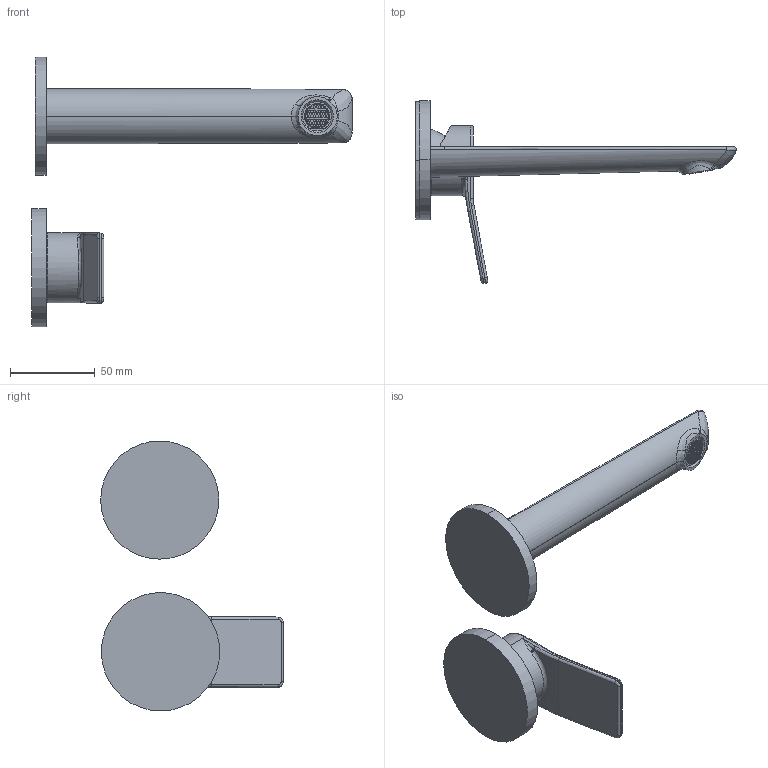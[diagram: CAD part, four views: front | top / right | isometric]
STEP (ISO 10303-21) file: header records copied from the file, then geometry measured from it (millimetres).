
FILE_DESCRIPTION (( 'STEP AP203' ), '1' );
FILE_NAME ('85328110 x architetti.STEP', '2026-04-02T14:41:11', ( '' ), ( '' ), 'SwSTEP 2.0', 'SolidWorks 2020', '' );
FILE_SCHEMA (( 'CONFIG_CONTROL_DESIGN' ));
Length unit declared in the file: millimetre
Products named in the file (1): 85328110 x architetti
Bounding box: 189.37 x 107.93 x 159.56 mm (x, y, z)
Volume: 131950.3 mm3; surface area: 56510.8 mm2
Topology: 3 solids, 4 shells, 1176 faces, 2800 edges, 1646 vertices
Faces by surface type: plane 619, cylinder 391, bspline 145, cone 19, torus 2
Entity records: 43988 total; most frequent: CARTESIAN_POINT 19485, ORIENTED_EDGE 5596, DIRECTION 4347, EDGE_CURVE 2798, VECTOR 1685, LINE 1685, VERTEX_POINT 1646, AXIS2_PLACEMENT_3D 1331
